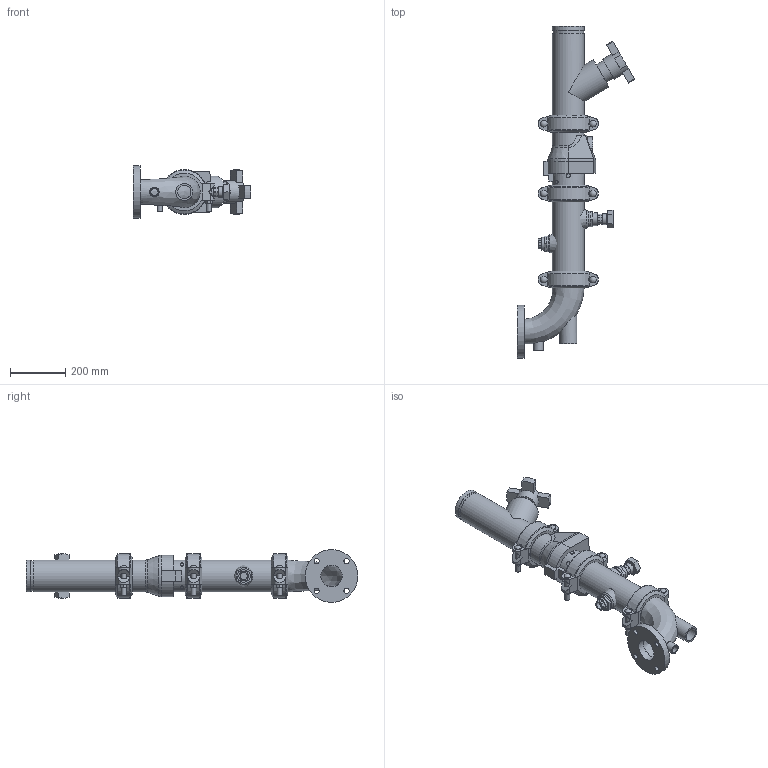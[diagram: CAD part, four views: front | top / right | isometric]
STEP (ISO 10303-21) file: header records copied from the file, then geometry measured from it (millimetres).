
FILE_DESCRIPTION(/* description */ ('VIC DVI PUMP DROP HORZ S/383 (OGSxFLG) (S/924-1.25)','CAx-IF Rec.Pracs.---Representation and Presentation of Product Manufacturing Information (PMI)---4.0---2014-10-13'),/* implementation_level */ '2;1');
FILE_NAME(/* name */ 'C:\Users\Vjadhav\AppData\Roaming\Autodesk\ApplicationPlugins\Victaulic.Temp\A892\Victaulic_IPS_Horizontal DVI_CL 150_Series 383 (OGSxFLG)_924 (1.25)_04.0x03.0 (100x80).stp',/* time_stamp */ '2022-02-28T15:42:52+05:00',/* author */ ('kkamble'),/* organization */ ('Victaulic'),/* preprocessor_version */ 'ST-DEVELOPER v17.2',/* originating_system */ 'Autodesk Inventor 2019',/* authorisation */ '');
FILE_SCHEMA (('AP242_MANAGED_MODEL_BASED_3D_ENGINEERING_MIM_LF { 1 0 10303 442 1 1 4 }'));
Length unit declared in the file: inch
Products named in the file (8): 383-924 (1.25)-04.0x03.0; Pipe-04.0x03.0; 789-04.0; 177N-04.0; 779-04.0; 923-04.0x0.75; 924-04.0x01.25; R100F-04.0x03.0
Assembly tree (9 placements, depth 2):
  383-924 (1.25)-04.0x03.0
    177N-04.0  x3
    Pipe-04.0x03.0
    789-04.0
    779-04.0
    923-04.0x0.75
    924-04.0x01.25
    R100F-04.0x03.0
Bounding box: 423.93 x 1198.56 x 190.5 mm (x, y, z)
Volume: 8055038.1 mm3; surface area: 1408960.9 mm2
Topology: 9 solids, 10 shells, 542 faces, 1440 edges, 961 vertices
Faces by surface type: plane 317, cylinder 178, torus 18, cone 17, sphere 6, bspline 6
Full cylindrical faces by diameter (mm): 13.716 x2, 17.424 x6, 19.05 x4, 21.336 x1, 23.495 x6, 26.67 x3, 34.29 x1, 38.608 x1, 42.164 x1, 45.974 x4, 48.26 x1, 48.514 x1, 55.626 x2, 60.96 x1, 72.39 x1, 77.927 x1, 82.55 x1, 101.6 x3, 102.26 x4, 110.084 x7, 114.3 x18, 190.5 x1
Entity records: 13119 total; most frequent: CARTESIAN_POINT 3447, DIRECTION 1978, ORIENTED_EDGE 1828, EDGE_CURVE 914, AXIS2_PLACEMENT_3D 753, VERTEX_POINT 617, LINE 472, VECTOR 472
